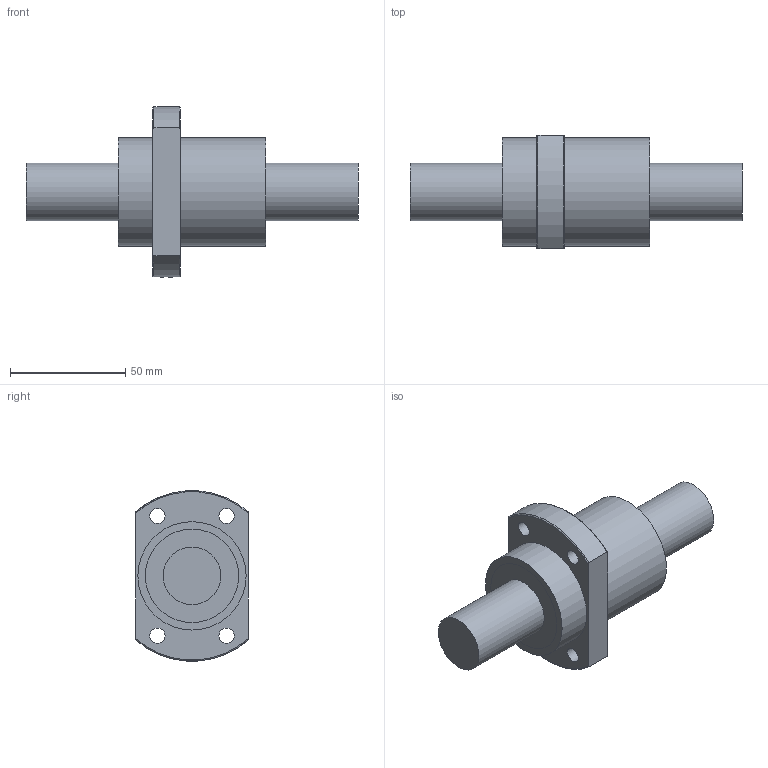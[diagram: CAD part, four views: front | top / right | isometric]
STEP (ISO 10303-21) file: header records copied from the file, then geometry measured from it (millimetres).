
FILE_DESCRIPTION (( 'STEP AP203' ), '1' );
FILE_NAME ('SFYA2525-3.6.STEP', '2023-05-24T07:16:44', ( '' ), ( '' ), 'SwSTEP 2.0', 'SolidWorks 2022', '' );
FILE_SCHEMA (( 'CONFIG_CONTROL_DESIGN' ));
Length unit declared in the file: millimetre
Products named in the file (1): SFYA2525-3.6
Bounding box: 144 x 49 x 73.88 mm (x, y, z)
Volume: 167637.7 mm3; surface area: 41500.2 mm2
Topology: 4 solids, 4 shells, 53 faces, 101 edges, 67 vertices
Faces by surface type: cylinder 26, plane 22, torus 4, cone 1
Full cylindrical faces by diameter (mm): 3 x1, 5 x1, 6.6 x4, 25 x4, 38 x4, 40.5 x4, 42 x4, 47 x2
Entity records: 1576 total; most frequent: CARTESIAN_POINT 479, DIRECTION 224, ORIENTED_EDGE 144, AXIS2_PLACEMENT_3D 108, EDGE_LOOP 106, FACE_OUTER_BOUND 77, EDGE_CURVE 72, VERTEX_POINT 64
